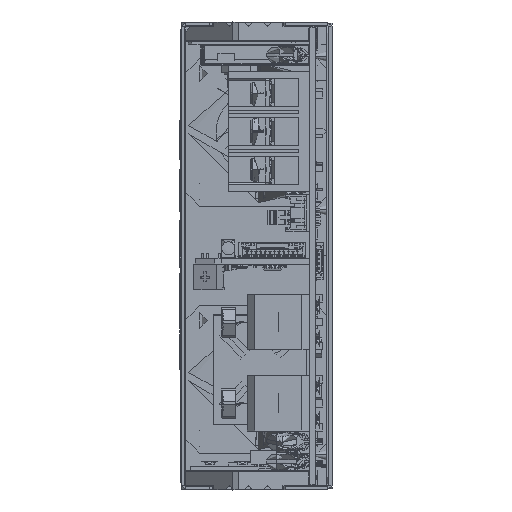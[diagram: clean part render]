
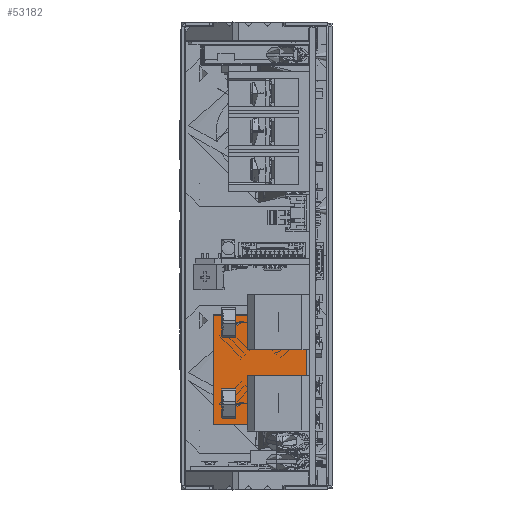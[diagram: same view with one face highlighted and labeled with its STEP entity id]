
A CAD part, left-side view. The second image highlights one B-rep face of the part: STEP entity #53182.
In plain terms, the highlighted free-form (B-spline) face has degree [1, 1] with [2, 2] control points.
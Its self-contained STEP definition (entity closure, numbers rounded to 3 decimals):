
#53182=ADVANCED_FACE('',(#64120),#459346,.T.);
#64120=FACE_OUTER_BOUND('',#77809,.T.);
#77809=EDGE_LOOP('',(#120209,#120210,#120211,#120212));
#120209=ORIENTED_EDGE('',*,*,#336737,.F.);
#120210=ORIENTED_EDGE('',*,*,#336754,.F.);
#120211=ORIENTED_EDGE('',*,*,#336748,.F.);
#120212=ORIENTED_EDGE('',*,*,#336756,.F.);
#196157=PCURVE('',#459341,#253831);
#196168=PCURVE('',#459342,#253842);
#196176=PCURVE('',#459343,#253850);
#196182=PCURVE('',#459345,#253856);
#196185=PCURVE('',#459346,#253859);
#196186=PCURVE('',#459346,#253860);
#196187=PCURVE('',#459346,#253861);
#196188=PCURVE('',#459346,#253862);
#253831=DEFINITIONAL_REPRESENTATION('',(#399319),#949508);
#253842=DEFINITIONAL_REPRESENTATION('',(#399341),#949508);
#253850=DEFINITIONAL_REPRESENTATION('',(#399355),#949508);
#253856=DEFINITIONAL_REPRESENTATION('',(#399363),#949508);
#253859=DEFINITIONAL_REPRESENTATION('',(#399366),#949508);
#253860=DEFINITIONAL_REPRESENTATION('',(#399367),#949508);
#253861=DEFINITIONAL_REPRESENTATION('',(#399368),#949508);
#253862=DEFINITIONAL_REPRESENTATION('',(#399369),#949508);
#300120=SURFACE_CURVE('',#399318,(#196157,#196185),.PCURVE_S1.);
#300131=SURFACE_CURVE('',#399340,(#196168,#196187),.PCURVE_S1.);
#300137=SURFACE_CURVE('',#399354,(#196176,#196186),.PCURVE_S1.);
#300139=SURFACE_CURVE('',#399362,(#196182,#196188),.PCURVE_S1.);
#336737=EDGE_CURVE('',#444229,#444232,#300120,.T.);
#336748=EDGE_CURVE('',#444240,#444237,#300131,.T.);
#336754=EDGE_CURVE('',#444237,#444229,#300137,.T.);
#336756=EDGE_CURVE('',#444232,#444240,#300139,.T.);
#399318=B_SPLINE_CURVE_WITH_KNOTS('',1,(#788177,#788178),.UNSPECIFIED.,
 .F.,.F.,(2,2),(-30.,0.),.UNSPECIFIED.);
#399319=B_SPLINE_CURVE_WITH_KNOTS('',1,(#788179,#788180),.UNSPECIFIED.,
 .F.,.F.,(2,2),(-30.,0.),.UNSPECIFIED.);
#399340=B_SPLINE_CURVE_WITH_KNOTS('',1,(#788221,#788222),.UNSPECIFIED.,
 .F.,.F.,(2,2),(0.,30.),.UNSPECIFIED.);
#399341=B_SPLINE_CURVE_WITH_KNOTS('',1,(#788223,#788224),.UNSPECIFIED.,
 .F.,.F.,(2,2),(0.,30.),.UNSPECIFIED.);
#399354=B_SPLINE_CURVE_WITH_KNOTS('',1,(#788249,#788250),.UNSPECIFIED.,
 .F.,.F.,(2,2),(0.,25.),.UNSPECIFIED.);
#399355=B_SPLINE_CURVE_WITH_KNOTS('',1,(#788251,#788252),.UNSPECIFIED.,
 .F.,.F.,(2,2),(0.,25.),.UNSPECIFIED.);
#399362=B_SPLINE_CURVE_WITH_KNOTS('',1,(#788265,#788266),.UNSPECIFIED.,
 .F.,.F.,(2,2),(0.,25.),.UNSPECIFIED.);
#399363=B_SPLINE_CURVE_WITH_KNOTS('',1,(#788267,#788268),.UNSPECIFIED.,
 .F.,.F.,(2,2),(0.,25.),.UNSPECIFIED.);
#399366=B_SPLINE_CURVE_WITH_KNOTS('',1,(#788273,#788274),.UNSPECIFIED.,
 .F.,.F.,(2,2),(-30.,0.),.UNSPECIFIED.);
#399367=B_SPLINE_CURVE_WITH_KNOTS('',1,(#788275,#788276),.UNSPECIFIED.,
 .F.,.F.,(2,2),(0.,25.),.UNSPECIFIED.);
#399368=B_SPLINE_CURVE_WITH_KNOTS('',1,(#788277,#788278),.UNSPECIFIED.,
 .F.,.F.,(2,2),(0.,30.),.UNSPECIFIED.);
#399369=B_SPLINE_CURVE_WITH_KNOTS('',1,(#788279,#788280),.UNSPECIFIED.,
 .F.,.F.,(2,2),(0.,25.),.UNSPECIFIED.);
#444229=VERTEX_POINT('',#788161);
#444232=VERTEX_POINT('',#788164);
#444237=VERTEX_POINT('',#788169);
#444240=VERTEX_POINT('',#788172);
#459341=B_SPLINE_SURFACE_WITH_KNOTS('',1,1,((#788121,#788122),(#788123,
#788124)),.UNSPECIFIED.,.F.,.F.,.F.,(2,2),(2,2),(-18.12,18.12),(-16.77,
3.27),.UNSPECIFIED.);
#459342=B_SPLINE_SURFACE_WITH_KNOTS('',1,1,((#788125,#788126),(#788127,
#788128)),.UNSPECIFIED.,.F.,.F.,.F.,(2,2),(2,2),(-16.77,3.27),(-18.12,18.12),
 .UNSPECIFIED.);
#459343=B_SPLINE_SURFACE_WITH_KNOTS('',1,1,((#788129,#788130),(#788131,
#788132)),.UNSPECIFIED.,.F.,.F.,.F.,(2,2),(2,2),(-10.02,10.02),(-15.12,
15.12),.UNSPECIFIED.);
#459345=B_SPLINE_SURFACE_WITH_KNOTS('',1,1,((#788137,#788138),(#788139,
#788140)),.UNSPECIFIED.,.F.,.F.,.F.,(2,2),(2,2),(-10.02,10.02),(-15.12,
15.12),.UNSPECIFIED.);
#459346=B_SPLINE_SURFACE_WITH_KNOTS('',1,1,((#788141,#788142),(#788143,
#788144)),.UNSPECIFIED.,.F.,.F.,.F.,(2,2),(2,2),(-18.12,18.12),(-15.12,
15.12),.UNSPECIFIED.);
#788121=CARTESIAN_POINT('',(-12.25,-10.02,-18.12));
#788122=CARTESIAN_POINT('',(-12.25,10.02,-18.12));
#788123=CARTESIAN_POINT('',(-12.25,-10.02,18.12));
#788124=CARTESIAN_POINT('',(-12.25,10.02,18.12));
#788125=CARTESIAN_POINT('',(12.75,-10.02,-18.12));
#788126=CARTESIAN_POINT('',(12.75,-10.02,18.12));
#788127=CARTESIAN_POINT('',(12.75,10.02,-18.12));
#788128=CARTESIAN_POINT('',(12.75,10.02,18.12));
#788129=CARTESIAN_POINT('',(-14.87,-10.02,-15.));
#788130=CARTESIAN_POINT('',(15.37,-10.02,-15.));
#788131=CARTESIAN_POINT('',(-14.87,10.02,-15.));
#788132=CARTESIAN_POINT('',(15.37,10.02,-15.));
#788137=CARTESIAN_POINT('',(-14.87,10.02,15.));
#788138=CARTESIAN_POINT('',(15.37,10.02,15.));
#788139=CARTESIAN_POINT('',(-14.87,-10.02,15.));
#788140=CARTESIAN_POINT('',(15.37,-10.02,15.));
#788141=CARTESIAN_POINT('',(-14.87,-8.25,18.12));
#788142=CARTESIAN_POINT('',(15.37,-8.25,18.12));
#788143=CARTESIAN_POINT('',(-14.87,-8.25,-18.12));
#788144=CARTESIAN_POINT('',(15.37,-8.25,-18.12));
#788161=CARTESIAN_POINT('',(-12.25,-8.25,-15.));
#788164=CARTESIAN_POINT('',(-12.25,-8.25,15.));
#788169=CARTESIAN_POINT('',(12.75,-8.25,-15.));
#788172=CARTESIAN_POINT('',(12.75,-8.25,15.));
#788177=CARTESIAN_POINT('',(-12.25,-8.25,-15.));
#788178=CARTESIAN_POINT('',(-12.25,-8.25,15.));
#788179=CARTESIAN_POINT('',(-15.,-15.));
#788180=CARTESIAN_POINT('',(15.,-15.));
#788221=CARTESIAN_POINT('',(12.75,-8.25,15.));
#788222=CARTESIAN_POINT('',(12.75,-8.25,-15.));
#788223=CARTESIAN_POINT('',(-15.,15.));
#788224=CARTESIAN_POINT('',(-15.,-15.));
#788249=CARTESIAN_POINT('',(12.75,-8.25,-15.));
#788250=CARTESIAN_POINT('',(-12.25,-8.25,-15.));
#788251=CARTESIAN_POINT('',(-8.25,12.5));
#788252=CARTESIAN_POINT('',(-8.25,-12.5));
#788265=CARTESIAN_POINT('',(-12.25,-8.25,15.));
#788266=CARTESIAN_POINT('',(12.75,-8.25,15.));
#788267=CARTESIAN_POINT('',(8.25,-12.5));
#788268=CARTESIAN_POINT('',(8.25,12.5));
#788273=CARTESIAN_POINT('',(15.,-12.5));
#788274=CARTESIAN_POINT('',(-15.,-12.5));
#788275=CARTESIAN_POINT('',(15.,12.5));
#788276=CARTESIAN_POINT('',(15.,-12.5));
#788277=CARTESIAN_POINT('',(-15.,12.5));
#788278=CARTESIAN_POINT('',(15.,12.5));
#788279=CARTESIAN_POINT('',(-15.,-12.5));
#788280=CARTESIAN_POINT('',(-15.,12.5));
#949508=(
GEOMETRIC_REPRESENTATION_CONTEXT(2)
PARAMETRIC_REPRESENTATION_CONTEXT()
REPRESENTATION_CONTEXT('pspace','')
);
